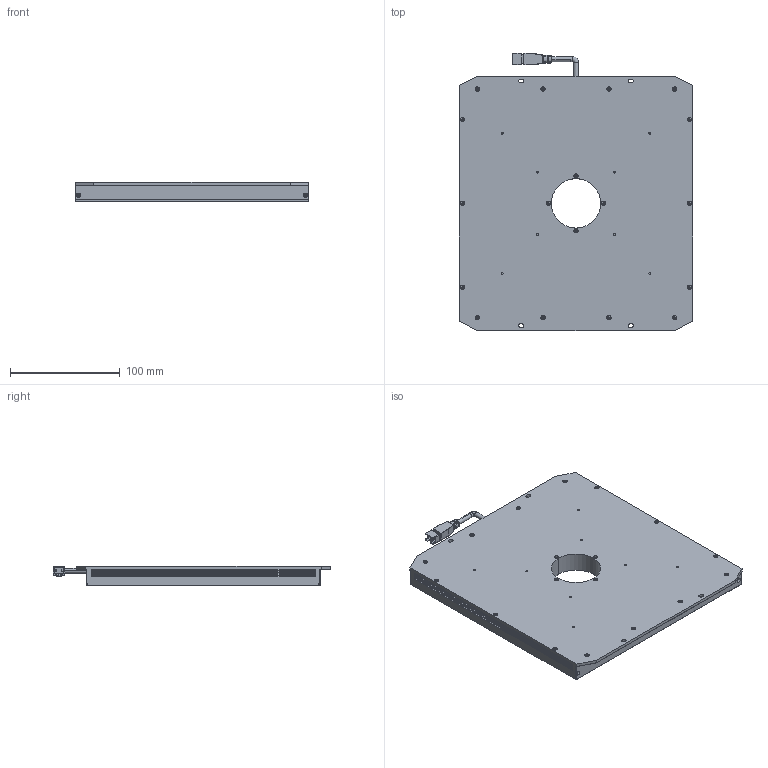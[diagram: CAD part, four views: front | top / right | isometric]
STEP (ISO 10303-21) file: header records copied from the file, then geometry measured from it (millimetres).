
FILE_DESCRIPTION((''),'2;1');
FILE_NAME('LS-LBES-H-200-200-X2','2022-11-04T11:50:57',('LumaSpec Vision'),('LumaSpec Vision'),'CREO PARAMETRIC BY PTC INC, 2020044','CREO PARAMETRIC BY PTC INC, 2020044','');
FILE_SCHEMA(('AUTOMOTIVE_DESIGN { 1 0 10303 214 1 1 1 1 }'));
Products named in the file (1): PRT0001
Bounding box: 213 x 252.75 x 18 mm (x, y, z)
Volume: 799067.2 mm3; surface area: 122159.7 mm2
Topology: 1 solids, 82 shells, 2380 faces, 5447 edges, 3238 vertices
Faces by surface type: plane 1408, cylinder 627, cone 235, torus 94, sphere 8, bspline 8
Entity records: 69199 total; most frequent: CARTESIAN_POINT 13359, DIRECTION 11185, ORIENTED_EDGE 10794, EDGE_CURVE 5397, AXIS2_PLACEMENT_3D 3827, VECTOR 3531, LINE 3531, VERTEX_POINT 3238
